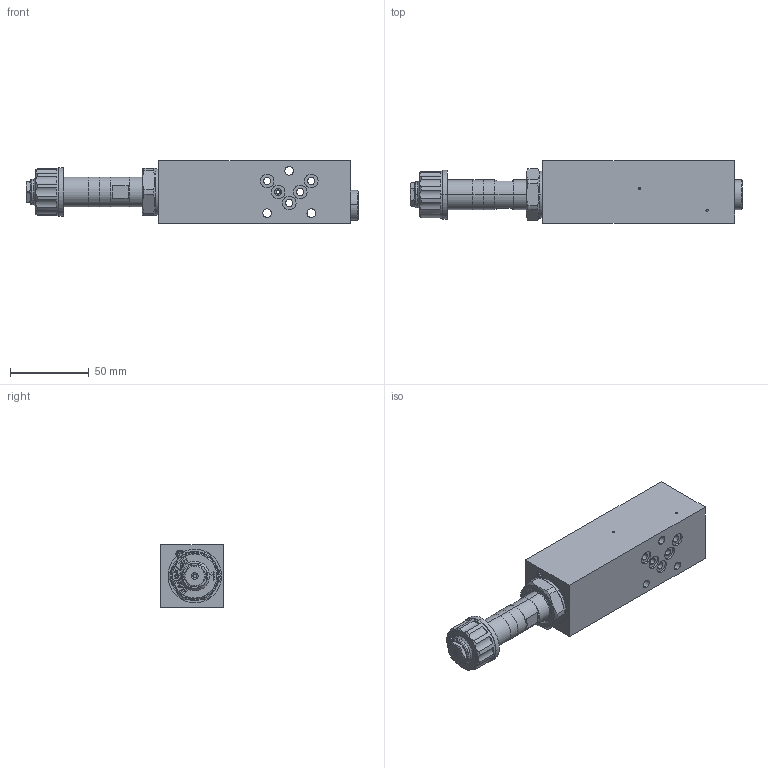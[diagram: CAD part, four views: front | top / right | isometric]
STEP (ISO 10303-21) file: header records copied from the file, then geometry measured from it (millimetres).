
FILE_DESCRIPTION (( 'STEP AP214' ), '1' );
FILE_NAME ('M.PSA04-A.STEP', '2017-03-31T06:05:40', ( '' ), ( '' ), 'SwSTEP 2.0', 'SolidWorks 2016', '' );
FILE_SCHEMA (( 'AUTOMOTIVE_DESIGN' ));
Length unit declared in the file: millimetre
Products named in the file (1): M.PSA04-A
Bounding box: 211 x 39.5 x 40 mm (x, y, z)
Volume: 220660.9 mm3; surface area: 39463.1 mm2
Topology: 6 solids, 9 shells, 533 faces, 1304 edges, 817 vertices
Faces by surface type: plane 241, cylinder 148, cone 102, bspline 22, torus 12, sphere 8
Entity records: 22455 total; most frequent: CARTESIAN_POINT 4413, DIRECTION 2611, ORIENTED_EDGE 2564, EDGE_CURVE 1282, AXIS2_PLACEMENT_3D 963, VERTEX_POINT 817, VECTOR 685, LINE 685
